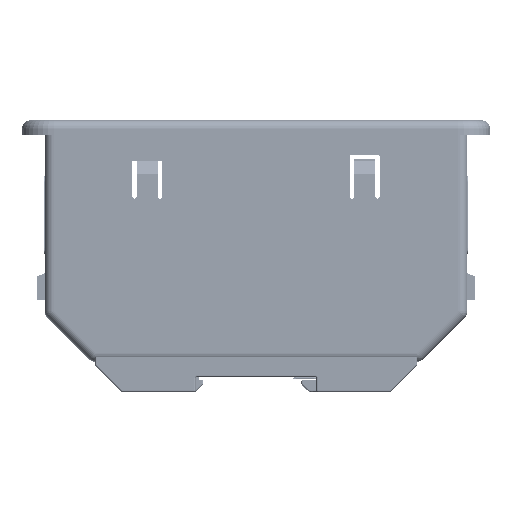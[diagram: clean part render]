
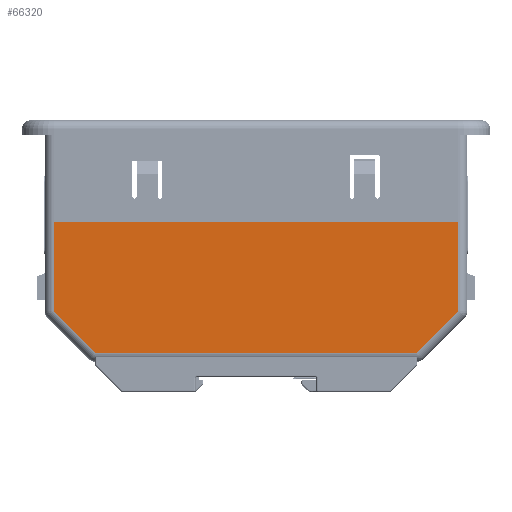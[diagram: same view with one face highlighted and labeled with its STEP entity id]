
A CAD part, left-side view. The second image highlights one B-rep face of the part: STEP entity #66320.
In plain terms, the highlighted planar face has unit normal (-1, 0, 0).
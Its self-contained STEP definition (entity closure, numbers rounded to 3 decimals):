
#9262 = VECTOR ( 'NONE', #284963, 1000. ) ;
#59691 = DIRECTION ( 'NONE',  ( 0., 0., 1. ) ) ;
#64207 = VECTOR ( 'NONE', #65060, 1000. ) ;
#64239 = CARTESIAN_POINT ( 'NONE',  ( -70., -67., -33.8 ) ) ;
#65060 = DIRECTION ( 'NONE',  ( 0., 0., -1. ) ) ;
#66320 = ADVANCED_FACE ( 'NONE', ( #184717 ), #517435, .F. ) ;
#72829 = VERTEX_POINT ( 'NONE', #210087 ) ;
#81982 = LINE ( 'NONE', #122020, #64207 ) ;
#86627 = CARTESIAN_POINT ( 'NONE',  ( -70., -53.257, -77. ) ) ;
#118789 = EDGE_CURVE ( 'NONE', #586268, #586672, #290821, .T. ) ;
#122020 = CARTESIAN_POINT ( 'NONE',  ( -70., 67., -64.5 ) ) ;
#134845 = ORIENTED_EDGE ( 'NONE', *, *, #596959, .T. ) ;
#154997 = VERTEX_POINT ( 'NONE', #286553 ) ;
#159945 = LINE ( 'NONE', #170852, #9262 ) ;
#170852 = CARTESIAN_POINT ( 'NONE',  ( -70., 44.629, -85.629 ) ) ;
#177836 = ORIENTED_EDGE ( 'NONE', *, *, #441212, .T. ) ;
#178014 = DIRECTION ( 'NONE',  ( 1., 0., 0. ) ) ;
#182503 = LINE ( 'NONE', #682327, #333315 ) ;
#184717 = FACE_OUTER_BOUND ( 'NONE', #528982, .T. ) ;
#191736 = EDGE_CURVE ( 'NONE', #586268, #312318, #81982, .T. ) ;
#210087 = CARTESIAN_POINT ( 'NONE',  ( -70., -67., -63.257 ) ) ;
#268329 = ORIENTED_EDGE ( 'NONE', *, *, #191736, .T. ) ;
#284963 = DIRECTION ( 'NONE',  ( 0., -0.707, -0.707 ) ) ;
#285895 = DIRECTION ( 'NONE',  ( 0., -0.707, 0.707 ) ) ;
#286553 = CARTESIAN_POINT ( 'NONE',  ( -70., 53.257, -77. ) ) ;
#290414 = ORIENTED_EDGE ( 'NONE', *, *, #560579, .T. ) ;
#290821 = LINE ( 'NONE', #510295, #725008 ) ;
#302836 = VECTOR ( 'NONE', #59691, 1000. ) ;
#312318 = VERTEX_POINT ( 'NONE', #490616 ) ;
#333315 = VECTOR ( 'NONE', #285895, 1000. ) ;
#399228 = CARTESIAN_POINT ( 'NONE',  ( -70., -67., -37. ) ) ;
#401171 = CARTESIAN_POINT ( 'NONE',  ( -70., 39., -80. ) ) ;
#434091 = CARTESIAN_POINT ( 'NONE',  ( -70., 67., -33.8 ) ) ;
#441212 = EDGE_CURVE ( 'NONE', #72829, #586672, #453562, .T. ) ;
#453562 = LINE ( 'NONE', #399228, #302836 ) ;
#466030 = DIRECTION ( 'NONE',  ( 0., -1., 0. ) ) ;
#490616 = CARTESIAN_POINT ( 'NONE',  ( -70., 67., -63.257 ) ) ;
#505002 = LINE ( 'NONE', #691504, #637970 ) ;
#510295 = CARTESIAN_POINT ( 'NONE',  ( -70., 67., -33.8 ) ) ;
#517435 = PLANE ( 'NONE',  #593045 ) ;
#528982 = EDGE_LOOP ( 'NONE', ( #134845, #177836, #622132, #268329, #290414, #603905 ) ) ;
#539061 = EDGE_CURVE ( 'NONE', #154997, #616159, #505002, .T. ) ;
#560579 = EDGE_CURVE ( 'NONE', #312318, #154997, #159945, .T. ) ;
#574438 = DIRECTION ( 'NONE',  ( 0., -1., 0. ) ) ;
#586268 = VERTEX_POINT ( 'NONE', #434091 ) ;
#586672 = VERTEX_POINT ( 'NONE', #64239 ) ;
#593045 = AXIS2_PLACEMENT_3D ( 'NONE', #401171, #178014, #574438 ) ;
#596959 = EDGE_CURVE ( 'NONE', #616159, #72829, #182503, .T. ) ;
#603905 = ORIENTED_EDGE ( 'NONE', *, *, #539061, .T. ) ;
#616159 = VERTEX_POINT ( 'NONE', #86627 ) ;
#622132 = ORIENTED_EDGE ( 'NONE', *, *, #118789, .F. ) ;
#626731 = DIRECTION ( 'NONE',  ( 0., -1., 0. ) ) ;
#637970 = VECTOR ( 'NONE', #466030, 1000. ) ;
#682327 = CARTESIAN_POINT ( 'NONE',  ( -70., -5.629, -124.629 ) ) ;
#691504 = CARTESIAN_POINT ( 'NONE',  ( -70., -54.5, -77. ) ) ;
#725008 = VECTOR ( 'NONE', #626731, 1000. ) ;
